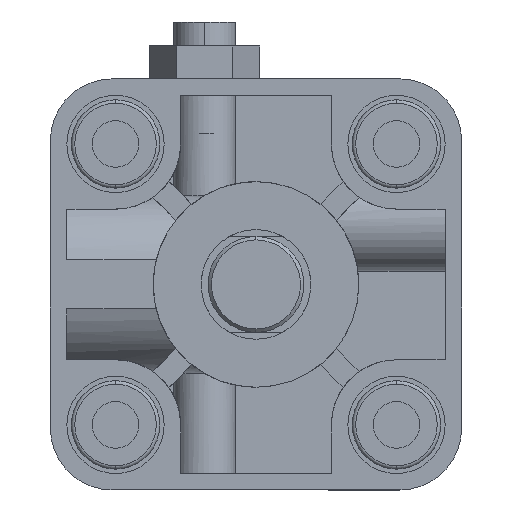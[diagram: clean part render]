
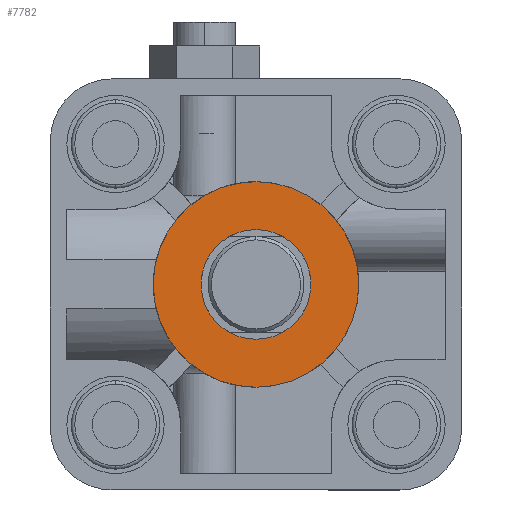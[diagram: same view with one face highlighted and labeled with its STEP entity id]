
A CAD part, left-side view. The second image highlights one B-rep face of the part: STEP entity #7782.
In plain terms, the highlighted planar face has unit normal (-1, 0, 0) as drawn and (1, 0, 0) by its records, which use the part's own axes.
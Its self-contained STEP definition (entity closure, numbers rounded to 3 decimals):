
#286 = EDGE_LOOP ( 'NONE', ( #9365, #6682 ) ) ;
#436 = DIRECTION ( 'NONE',  ( -1., 0., 0. ) ) ;
#509 = CARTESIAN_POINT ( 'NONE',  ( 24.5, 0., 0. ) ) ;
#751 = CARTESIAN_POINT ( 'NONE',  ( 24.5, 0., 0. ) ) ;
#830 = ORIENTED_EDGE ( 'NONE', *, *, #4066, .T. ) ;
#904 = CIRCLE ( 'NONE', #1597, 8. ) ;
#1278 = VERTEX_POINT ( 'NONE', #9389 ) ;
#1597 = AXIS2_PLACEMENT_3D ( 'NONE', #509, #4149, #4755 ) ;
#2123 = AXIS2_PLACEMENT_3D ( 'NONE', #751, #9224, #4087 ) ;
#2279 = DIRECTION ( 'NONE',  ( 0., 0., 1. ) ) ;
#2513 = EDGE_LOOP ( 'NONE', ( #6191, #830 ) ) ;
#2555 = EDGE_CURVE ( 'NONE', #7966, #5001, #7581, .T. ) ;
#3259 = DIRECTION ( 'NONE',  ( -1., 0., 0. ) ) ;
#4066 = EDGE_CURVE ( 'NONE', #5001, #7966, #904, .T. ) ;
#4087 = DIRECTION ( 'NONE',  ( 0., 0., 1. ) ) ;
#4093 = CARTESIAN_POINT ( 'NONE',  ( 24.5, 8., 0. ) ) ;
#4149 = DIRECTION ( 'NONE',  ( -1., 0., 0. ) ) ;
#4404 = CARTESIAN_POINT ( 'NONE',  ( 24.5, 0., -8. ) ) ;
#4654 = AXIS2_PLACEMENT_3D ( 'NONE', #4093, #436, #2279 ) ;
#4755 = DIRECTION ( 'NONE',  ( 0., 0., 1. ) ) ;
#4778 = EDGE_CURVE ( 'NONE', #1278, #4824, #5462, .T. ) ;
#4824 = VERTEX_POINT ( 'NONE', #4840 ) ;
#4840 = CARTESIAN_POINT ( 'NONE',  ( 24.5, 0., 15. ) ) ;
#5001 = VERTEX_POINT ( 'NONE', #4404 ) ;
#5055 = DIRECTION ( 'NONE',  ( 0., 0., 1. ) ) ;
#5144 = CARTESIAN_POINT ( 'NONE',  ( 24.5, 0., 8. ) ) ;
#5261 = FACE_BOUND ( 'NONE', #2513, .T. ) ;
#5382 = CIRCLE ( 'NONE', #6385, 15. ) ;
#5462 = CIRCLE ( 'NONE', #2123, 15. ) ;
#6191 = ORIENTED_EDGE ( 'NONE', *, *, #2555, .T. ) ;
#6385 = AXIS2_PLACEMENT_3D ( 'NONE', #8671, #9304, #5055 ) ;
#6432 = DIRECTION ( 'NONE',  ( 0., 0., 1. ) ) ;
#6664 = PLANE ( 'NONE',  #4654 ) ;
#6682 = ORIENTED_EDGE ( 'NONE', *, *, #4778, .F. ) ;
#6757 = CARTESIAN_POINT ( 'NONE',  ( 24.5, 0., 0. ) ) ;
#7581 = CIRCLE ( 'NONE', #8882, 8. ) ;
#7782 = ADVANCED_FACE ( 'NONE', ( #8259, #5261 ), #6664, .F. ) ;
#7966 = VERTEX_POINT ( 'NONE', #5144 ) ;
#8259 = FACE_OUTER_BOUND ( 'NONE', #286, .T. ) ;
#8323 = EDGE_CURVE ( 'NONE', #4824, #1278, #5382, .T. ) ;
#8671 = CARTESIAN_POINT ( 'NONE',  ( 24.5, 0., 0. ) ) ;
#8882 = AXIS2_PLACEMENT_3D ( 'NONE', #6757, #3259, #6432 ) ;
#9224 = DIRECTION ( 'NONE',  ( -1., 0., 0. ) ) ;
#9304 = DIRECTION ( 'NONE',  ( -1., 0., 0. ) ) ;
#9365 = ORIENTED_EDGE ( 'NONE', *, *, #8323, .F. ) ;
#9389 = CARTESIAN_POINT ( 'NONE',  ( 24.5, 0., -15. ) ) ;
